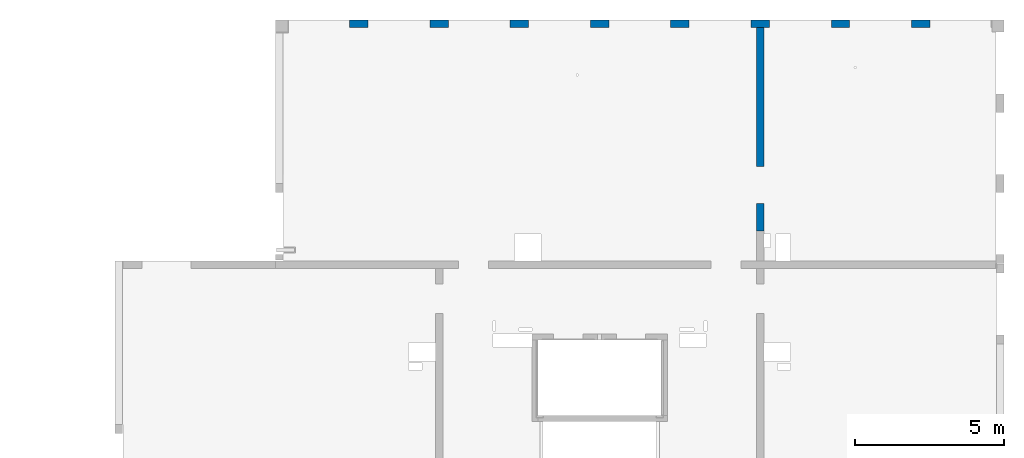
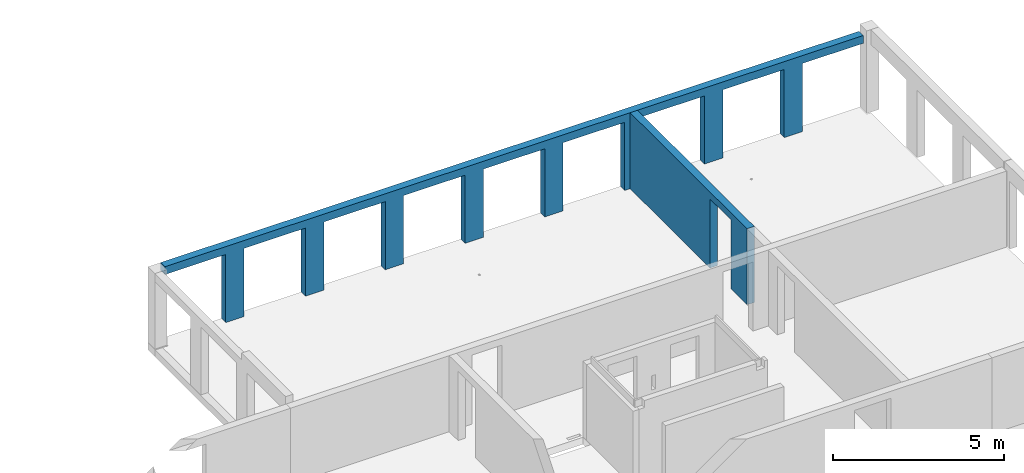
# One storey, part 7 of 12: 2 walls, 10 openings.
"""IFC2X3 building model written with IfcOpenShell, lengths in millimetres."""

import ifcopenshell
import ifcopenshell.guid

model = None  # the IFC model being written
_history = None  # IfcOwnerHistory: only IFC2X3 demands one
_inside = {}  # id of a spatial element -> (the spatial element, [elements in it])
_under = {}  # id of a project, library or spatial element -> (it, [spatial elements below it])
_declared = {}  # id of a project -> (the project, [libraries it declares])
_typed = {}  # id of a type object -> (the type object, [elements of that type])
_made_of = {}  # id of a material, layer set ... -> (it, [elements and type objects made of it])


def new_model(schema):
    """Start an empty IFC model of exactly this schema.

    Asked for "IFC4X3", IfcOpenShell would pick the latest addendum, in which some entities
    have other attributes; the version numbers below select the first issue.
    IFC2X3 requires an IfcOwnerHistory on every rooted entity: one is made here for all.
    """
    global model, _history
    if schema == "IFC4X3":
        model = ifcopenshell.file(schema_version=(4, 3, 0, 0))
    else:
        model = ifcopenshell.file(schema=schema)
    _inside.clear()
    _under.clear()
    _declared.clear()
    _typed.clear()
    _made_of.clear()
    _history = None
    if model.schema == "IFC2X3":
        org = make("IfcOrganization", Name="unknown")
        user = make(
            "IfcPersonAndOrganization",
            ThePerson=make("IfcPerson", FamilyName="unknown"),
            TheOrganization=org,
        )
        app = make(
            "IfcApplication",
            ApplicationDeveloper=org,
            Version="unknown",
            ApplicationFullName="unknown",
            ApplicationIdentifier="unknown",
        )
        _history = make(
            "IfcOwnerHistory",
            OwningUser=user,
            OwningApplication=app,
            ChangeAction="ADDED",
            CreationDate=0,
        )
    return model


def make(cls, **values):
    """One entity of the class cls with the attributes given. An attribute that is None is left unset."""
    return model.create_entity(
        cls, **{name: value for name, value in values.items() if value is not None}
    )


def entity(cls, *values):
    """Any entity or typed value of the class cls, its attributes in the order of the schema. None: left unset."""
    e = model.create_entity(cls)
    for i, value in enumerate(values):
        if value is not None:
            e[i] = value
    return e


def rooted(cls, **values):
    """An entity with a GlobalId (a new one), such as an element, a storey or a relation."""
    return make(cls, GlobalId=ifcopenshell.guid.new(), OwnerHistory=_history, **values)


def si_unit(unit_type, name, prefix=None):
    """IfcSIUnit, for example si_unit("LENGTHUNIT", "METRE", prefix="MILLI")."""
    return make("IfcSIUnit", UnitType=unit_type, Prefix=prefix, Name=name)


def converted_unit(unit_type, name, factor, base, dimensions=None, offset=None):
    """IfcConversionBasedUnit, such as the inch: factor (a typed value) times the base unit."""
    return make(
        "IfcConversionBasedUnit"
        if offset is None
        else "IfcConversionBasedUnitWithOffset",
        ConversionOffset=offset,
        Dimensions=None
        if dimensions is None
        else entity("IfcDimensionalExponents", *dimensions),
        UnitType=unit_type,
        Name=name,
        ConversionFactor=make(
            "IfcMeasureWithUnit", ValueComponent=factor, UnitComponent=base
        ),
    )


def derived_unit(unit_type, elements):
    """IfcDerivedUnit: a product of units, each with its exponent."""
    return make(
        "IfcDerivedUnit",
        Elements=[
            make("IfcDerivedUnitElement", Unit=unit, Exponent=power)
            for unit, power in elements
        ],
        UnitType=unit_type,
    )


def assignment(units):
    """IfcUnitAssignment: the units of a project."""
    return None if units is None else make("IfcUnitAssignment", Units=units)


def point(xyz):
    """IfcCartesianPoint."""
    return None if xyz is None else make("IfcCartesianPoint", Coordinates=xyz)


def direction(xyz):
    """IfcDirection."""
    return None if xyz is None else make("IfcDirection", DirectionRatios=xyz)


def frame(location, z_axis=None, x_axis=None):
    """IfcAxis2Placement3D, a coordinate frame: its origin and axes. An axis left out is left unset."""
    return make(
        "IfcAxis2Placement3D",
        Location=point(location),
        Axis=direction(z_axis),
        RefDirection=direction(x_axis),
    )


def frame_2d(location, x_axis=None):
    """IfcAxis2Placement2D, a coordinate frame in the plane: its origin and x axis."""
    return make(
        "IfcAxis2Placement2D", Location=point(location), RefDirection=direction(x_axis)
    )


def origin():
    """The frame at (0, 0, 0) with its axes left unset."""
    return frame((0.0, 0.0, 0.0))


def place(relative_to, where):
    """IfcLocalPlacement: puts the frame where relative to a parent placement (None: the world)."""
    return make(
        "IfcLocalPlacement", PlacementRelTo=relative_to, RelativePlacement=where
    )


def context(
    kind, dimensions, precision=None, world=None, true_north=None, identifier=None
):
    """IfcGeometricRepresentationContext, for example the 3D "Model" context."""
    return make(
        "IfcGeometricRepresentationContext",
        ContextIdentifier=identifier,
        ContextType=kind,
        CoordinateSpaceDimension=dimensions,
        Precision=precision,
        WorldCoordinateSystem=world,
        TrueNorth=true_north,
    )


def subcontext(parent, identifier, kind, view, scale=None):
    """IfcGeometricRepresentationSubContext, for example "Body" below "Model"."""
    return make(
        "IfcGeometricRepresentationSubContext",
        ContextIdentifier=identifier,
        ContextType=kind,
        ParentContext=parent,
        TargetScale=scale,
        TargetView=view,
    )


def project(units=None, contexts=None):
    """IfcProject with its units and contexts."""
    return rooted(
        "IfcProject",
        Name="project",
        RepresentationContexts=contexts,
        UnitsInContext=assignment(units),
    )


def spatial(cls, under=None, at=None, **own):
    """A site, building, storey or space (cls), placed at a placement, below another one or the project."""
    s = rooted(cls, ObjectPlacement=at, **own)
    if under is not None:
        _under.setdefault(under.id(), (under, []))[1].append(s)
    return s


def profile(cls, at=None, kind="AREA", **sizes):
    """A parametric profile (cls). Its sizes go by their IFC names, for example OverallWidth=200.0."""
    return make(cls, ProfileType=kind, Position=at, **sizes)


def rectangle(**sizes):
    """IfcRectangleProfileDef."""
    return profile("IfcRectangleProfileDef", **sizes)


def extrude(swept, where, along, depth):
    """IfcExtrudedAreaSolid: the profile swept, set in the frame where, extruded along a direction by depth."""
    return make(
        "IfcExtrudedAreaSolid",
        SweptArea=swept,
        Position=where,
        ExtrudedDirection=direction(along),
        Depth=depth,
    )


def shape(context_of_items, identifier, shape_type, items):
    """IfcShapeRepresentation: the items that make up one representation, for example the "Body"."""
    return make(
        "IfcShapeRepresentation",
        ContextOfItems=context_of_items,
        RepresentationIdentifier=identifier,
        RepresentationType=shape_type,
        Items=items,
    )


def material(Name=None, Category=None):
    """IfcMaterial."""
    return make("IfcMaterial", Name=Name, Category=Category)


def layer(
    of_material, thickness, ventilated=None, Name=None, Category=None, Priority=None
):
    """IfcMaterialLayer: one layer of a wall or slab, of a material (None: an air gap)."""
    return make(
        "IfcMaterialLayer",
        Material=of_material,
        LayerThickness=thickness,
        IsVentilated=ventilated,
        Name=Name,
        Category=Category,
        Priority=Priority,
    )


def layer_set(layers, Name=None):
    """IfcMaterialLayerSet."""
    return make("IfcMaterialLayerSet", MaterialLayers=layers, LayerSetName=Name)


def layer_usage(for_layer_set, set_direction, sense, offset, extent=None):
    """IfcMaterialLayerSetUsage: how a layer set lies in its element."""
    return make(
        "IfcMaterialLayerSetUsage",
        ForLayerSet=for_layer_set,
        LayerSetDirection=set_direction,
        DirectionSense=sense,
        OffsetFromReferenceLine=offset,
        ReferenceExtent=extent,
    )


def made_of(thing, what):
    """Note that an element or type object is made of a material, layer set ...; save() writes the relation."""
    if what is not None:
        _made_of.setdefault(what.id(), (what, []))[1].append(thing)
    return thing


def type_object(cls, material=None, **own):
    """A type object (cls), such as IfcWallType, which elements share."""
    return made_of(rooted(cls, **own), material)


def element(
    cls,
    number,
    at=None,
    inside=None,
    cuts=None,
    type_object=None,
    material=None,
    context=None,
    identifier="Body",
    shape_type=None,
    held_by="IfcProductDefinitionShape",
    body=None,
    shapes=None,
    **own,
):
    """One element of the class cls, such as IfcWall. Its Tag is "e" and its number.

    at: its placement. inside: the storey or other place that contains it. cuts: it is an
    opening in that element (IfcRelVoidsElement). A single representation is given by context,
    identifier, shape_type and body (its items); several are given by shapes. held_by: the class
    of the entity that holds the representations. save() writes the other relations.
    """
    e = rooted(cls, Tag="e%d" % number, ObjectPlacement=at, **own)
    if body is not None:
        shapes = [shape(context, identifier, shape_type, body)]
    if shapes is not None:
        e.Representation = make(held_by, Representations=shapes)
    if inside is not None:
        _inside.setdefault(inside.id(), (inside, []))[1].append(e)
    if cuts is not None:
        rooted(
            "IfcRelVoidsElement", RelatingBuildingElement=cuts, RelatedOpeningElement=e
        )
    if type_object is not None:
        _typed.setdefault(type_object.id(), (type_object, []))[1].append(e)
    return made_of(e, material)


def aggregate(whole, parts):
    """IfcRelAggregates: a whole, such as a stair, and the parts it consists of."""
    return rooted("IfcRelAggregates", RelatingObject=whole, RelatedObjects=parts)


def save(model, path):
    """Write the relations noted so far, then the file.

    IfcRelAggregates (storeys below a building ...), IfcRelContainedInSpatialStructure (elements
    in a storey), IfcRelDefinesByType, IfcRelAssociatesMaterial and IfcRelDeclares: one each for
    every whole, place, type object, material and project.
    """
    for whole, parts in _under.values():
        aggregate(whole, parts)
    for where, things in _inside.values():
        rooted(
            "IfcRelContainedInSpatialStructure",
            RelatedElements=things,
            RelatingStructure=where,
        )
    for kind, things in _typed.values():
        rooted("IfcRelDefinesByType", RelatedObjects=things, RelatingType=kind)
    for what, things in _made_of.values():
        rooted("IfcRelAssociatesMaterial", RelatedObjects=things, RelatingMaterial=what)
    for by, libraries in _declared.values():
        rooted("IfcRelDeclares", RelatingContext=by, RelatedDefinitions=libraries)
    model.write(path)


model = new_model("IFC2X3")

# Units and contexts
model_context = context("Model", 3, precision=0.01, world=origin(), true_north=direction((6.12303176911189e-17, 1.0)))
body_context = subcontext(model_context, "Body", "Model", "MODEL_VIEW")
ifc_project = project(units=[si_unit("LENGTHUNIT", "METRE", prefix="MILLI"), si_unit("AREAUNIT", "SQUARE_METRE"), si_unit("VOLUMEUNIT", "CUBIC_METRE"), converted_unit("PLANEANGLEUNIT", "DEGREE", entity("IfcRatioMeasure", 0.0174532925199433), si_unit("PLANEANGLEUNIT", "RADIAN"), dimensions=[0, 0, 0, 0, 0, 0, 0]), si_unit("MASSUNIT", "GRAM", prefix="KILO"), derived_unit("MASSDENSITYUNIT", [(si_unit("MASSUNIT", "GRAM", prefix="KILO"), 1), (si_unit("LENGTHUNIT", "METRE"), -3)]), si_unit("TIMEUNIT", "SECOND"), si_unit("FREQUENCYUNIT", "HERTZ"), si_unit("THERMODYNAMICTEMPERATUREUNIT", "DEGREE_CELSIUS"), derived_unit("THERMALTRANSMITTANCEUNIT", [(si_unit("MASSUNIT", "GRAM", prefix="KILO"), 1), (si_unit("THERMODYNAMICTEMPERATUREUNIT", "KELVIN"), -1), (si_unit("TIMEUNIT", "SECOND"), -3)]), derived_unit("VOLUMETRICFLOWRATEUNIT", [(si_unit("LENGTHUNIT", "METRE"), 3), (si_unit("TIMEUNIT", "SECOND"), -1)]), si_unit("ELECTRICCURRENTUNIT", "AMPERE"), si_unit("ELECTRICVOLTAGEUNIT", "VOLT"), si_unit("POWERUNIT", "WATT"), si_unit("FORCEUNIT", "NEWTON", prefix="KILO"), si_unit("ILLUMINANCEUNIT", "LUX"), si_unit("LUMINOUSFLUXUNIT", "LUMEN"), si_unit("LUMINOUSINTENSITYUNIT", "CANDELA"), derived_unit("USERDEFINED", [(si_unit("MASSUNIT", "GRAM", prefix="KILO"), -1), (si_unit("LENGTHUNIT", "METRE"), -2), (si_unit("TIMEUNIT", "SECOND"), 3), (si_unit("LUMINOUSFLUXUNIT", "LUMEN"), 1)]), derived_unit("LINEARVELOCITYUNIT", [(si_unit("LENGTHUNIT", "METRE"), 1), (si_unit("TIMEUNIT", "SECOND"), -1)]), si_unit("PRESSUREUNIT", "PASCAL"), derived_unit("USERDEFINED", [(si_unit("LENGTHUNIT", "METRE"), -2), (si_unit("MASSUNIT", "GRAM", prefix="KILO"), 1), (si_unit("TIMEUNIT", "SECOND"), -2)])], contexts=[model_context])

# Site, building, storey
site_placement = place(None, origin())
site = spatial("IfcSite", under=ifc_project, at=site_placement, Name="Default", CompositionType="ELEMENT")
building_placement = place(site_placement, origin())
building = spatial("IfcBuilding", under=site, at=building_placement, Name="niet gebruiken", CompositionType="ELEMENT")
storey_placement = place(building_placement, frame((0.0, 0.0, 21510.0)))
storey = spatial("IfcBuildingStorey", under=building, at=storey_placement, Name="07 zevende verdieping", CompositionType="ELEMENT", Elevation=21510.0)

# Wall, opening
ifc_material = material(Name="NLRS_f2_beton ihwg")
ifc_layer_1 = layer(ifc_material, 250.0)
ifc_layer_set_1 = layer_set([ifc_layer_1], Name="Basic Wall:NLRS_22.21_WA_beton ihwg d=250_gen")
ifc_layer_usage_1 = layer_usage(ifc_layer_set_1, "AXIS2", "NEGATIVE", 125.0)
wall_type_1 = type_object("IfcWallType", Name="Basic Wall:NLRS_22.21_WA_beton ihwg d=250_gen", PredefinedType="STANDARD", material=ifc_layer_set_1)
wall_1_placement = place(storey_placement, frame((97200.0, 53006.0, -90.0), z_axis=(0.0, 0.0, 1.0), x_axis=(0.0, -1.0, 0.0)))
wall_1 = element("IfcWallStandardCase", 1, at=wall_1_placement, inside=storey, type_object=wall_type_1, material=ifc_layer_usage_1, Name="Basic Wall:NLRS_22.21_WA_beton ihwg d=250_gen", ObjectType="Basic Wall:NLRS_22.21_WA_beton ihwg d=250_gen", context=body_context, shape_type="SweptSolid", body=[
    extrude(rectangle(XDim=6850.00000000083, YDim=250.000000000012, at=frame_2d((3425.00000000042, -1.10134124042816e-12), x_axis=(-1.0, 0.0))), origin(), (0.0, 0.0, 1.0), 2719.99999999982),
])
opening_1_placement = place(wall_1_placement, origin())
element("IfcOpeningElement", 2, at=opening_1_placement, cuts=wall_1, Name="Basic Wall:NLRS_22.21_WA_beton ihwg d=250_gen", ObjectType="Opening", context=body_context, shape_type="SweptSolid", body=[
    extrude(rectangle(XDim=2470.0, YDim=1240.0, at=frame_2d((0.0, -4.37694325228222e-12), x_axis=(1.0, 0.0))), frame((5300.0, -1649.0, 1235.0), z_axis=(0.0, 1.0, 0.0), x_axis=(0.0, 0.0, 1.0)), (0.0, 0.0, 1.0), 3048.0),
])

# Wall, openings
ifc_layer_2 = layer(ifc_material, 250.0)
ifc_layer_set_2 = layer_set([ifc_layer_2], Name="Basic Wall:NLRS_21.21_WA_beton ihwg d=250_gen")
ifc_layer_usage_2 = layer_usage(ifc_layer_set_2, "AXIS2", "NEGATIVE", 125.0)
wall_type_2 = type_object("IfcWallType", Name="Basic Wall:NLRS_21.21_WA_beton ihwg d=250_gen", PredefinedType="STANDARD", material=ifc_layer_set_2)
wall_2_placement = place(storey_placement, frame((104970.0, 53131.0, -90.0), z_axis=(0.0, 0.0, 1.0), x_axis=(-1.0, 0.0, 0.0)))
wall_2 = element("IfcWallStandardCase", 3, at=wall_2_placement, inside=storey, type_object=wall_type_2, material=ifc_layer_usage_2, Name="Basic Wall:NLRS_21.21_WA_beton ihwg d=250_gen", ObjectType="Basic Wall:NLRS_21.21_WA_beton ihwg d=250_gen", context=body_context, shape_type="SweptSolid", body=[
    extrude(rectangle(XDim=23640.0000000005, YDim=249.999999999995, at=frame_2d((11820.0000000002, 5.82645043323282e-13), x_axis=(-1.0, 0.0))), origin(), (0.0, 0.0, 1.0), 2720.0),
])
opening_2_placement = place(wall_2_placement, origin())
element("IfcOpeningElement", 4, at=opening_2_placement, cuts=wall_2, Name="Basic Wall:NLRS_21.21_WA_beton ihwg d=250_gen", ObjectType="Opening", context=body_context, shape_type="SweptSolid", body=[
    extrude(rectangle(XDim=2440.0, YDim=2080.0, at=frame_2d((8.64019966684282e-12, 0.0), x_axis=(0.0, 1.0))), frame((22620.0, -1399.0, 1220.0), z_axis=(0.0, 1.0, 0.0), x_axis=(-1.0, 0.0, 0.0)), (0.0, 0.0, 1.0), 3048.0),
])
opening_3_placement = place(wall_2_placement, origin())
element("IfcOpeningElement", 5, at=opening_3_placement, cuts=wall_2, Name="Basic Wall:NLRS_21.21_WA_beton ihwg d=250_gen", ObjectType="Opening", context=body_context, shape_type="SweptSolid", body=[
    extrude(rectangle(XDim=2440.0, YDim=2080.0, at=frame_2d((-8.64019966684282e-12, -2.1600499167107e-12), x_axis=(0.0, 1.0))), frame((19920.0, -1399.0, 1220.0), z_axis=(0.0, 1.0, 0.0), x_axis=(-1.0, 0.0, 0.0)), (0.0, 0.0, 1.0), 3048.0),
])
opening_4_placement = place(wall_2_placement, origin())
element("IfcOpeningElement", 6, at=opening_4_placement, cuts=wall_2, Name="Basic Wall:NLRS_21.21_WA_beton ihwg d=250_gen", ObjectType="Opening", context=body_context, shape_type="SweptSolid", body=[
    extrude(rectangle(XDim=2440.0, YDim=2080.0, at=frame_2d((-8.64019966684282e-12, 0.0), x_axis=(0.0, 1.0))), frame((17220.0, -1399.0, 1220.0), z_axis=(0.0, 1.0, 0.0), x_axis=(-1.0, 0.0, 0.0)), (0.0, 0.0, 1.0), 3048.0),
])
opening_5_placement = place(wall_2_placement, origin())
element("IfcOpeningElement", 7, at=opening_5_placement, cuts=wall_2, Name="Basic Wall:NLRS_21.21_WA_beton ihwg d=250_gen", ObjectType="Opening", context=body_context, shape_type="SweptSolid", body=[
    extrude(rectangle(XDim=2440.0, YDim=2080.0, at=frame_2d((8.64019966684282e-12, -2.1600499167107e-12), x_axis=(0.0, 1.0))), frame((14520.0, -1399.0, 1220.0), z_axis=(0.0, 1.0, 0.0), x_axis=(-1.0, 0.0, 0.0)), (0.0, 0.0, 1.0), 3048.0),
])
opening_6_placement = place(wall_2_placement, origin())
element("IfcOpeningElement", 8, at=opening_6_placement, cuts=wall_2, Name="Basic Wall:NLRS_21.21_WA_beton ihwg d=250_gen", ObjectType="Opening", context=body_context, shape_type="SweptSolid", body=[
    extrude(rectangle(XDim=2440.0, YDim=2080.0, at=frame_2d((-8.64019966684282e-12, 0.0), x_axis=(0.0, 1.0))), frame((11820.0, -1399.0, 1220.0), z_axis=(0.0, 1.0, 0.0), x_axis=(-1.0, 0.0, 0.0)), (0.0, 0.0, 1.0), 3048.0),
])
opening_7_placement = place(wall_2_placement, origin())
element("IfcOpeningElement", 9, at=opening_7_placement, cuts=wall_2, Name="Basic Wall:NLRS_21.21_WA_beton ihwg d=250_gen", ObjectType="Opening", context=body_context, shape_type="SweptSolid", body=[
    extrude(rectangle(XDim=2440.0, YDim=2080.0, at=frame_2d((-8.64019966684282e-12, -2.1600499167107e-12), x_axis=(0.0, 1.0))), frame((9120.0, -1399.0, 1220.0), z_axis=(0.0, 1.0, 0.0), x_axis=(-1.0, 0.0, 0.0)), (0.0, 0.0, 1.0), 3048.0),
])
opening_8_placement = place(wall_2_placement, origin())
element("IfcOpeningElement", 10, at=opening_8_placement, cuts=wall_2, Name="Basic Wall:NLRS_21.21_WA_beton ihwg d=250_gen", ObjectType="Opening", context=body_context, shape_type="SweptSolid", body=[
    extrude(rectangle(XDim=2440.0, YDim=2080.0, at=frame_2d((8.64019966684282e-12, 0.0), x_axis=(0.0, 1.0))), frame((6420.0, -1399.0, 1220.0), z_axis=(0.0, 1.0, 0.0), x_axis=(-1.0, 0.0, 0.0)), (0.0, 0.0, 1.0), 3048.0),
])
opening_9_placement = place(wall_2_placement, origin())
element("IfcOpeningElement", 11, at=opening_9_placement, cuts=wall_2, Name="Basic Wall:NLRS_21.21_WA_beton ihwg d=250_gen", ObjectType="Opening", context=body_context, shape_type="SweptSolid", body=[
    extrude(rectangle(XDim=2440.0, YDim=2080.0, at=frame_2d((8.64019966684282e-12, -2.1600499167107e-12), x_axis=(0.0, 1.0))), frame((3720.0, -1399.0, 1220.0), z_axis=(0.0, 1.0, 0.0), x_axis=(-1.0, 0.0, 0.0)), (0.0, 0.0, 1.0), 3048.0),
])
opening_10_placement = place(wall_2_placement, origin())
element("IfcOpeningElement", 12, at=opening_10_placement, cuts=wall_2, Name="Basic Wall:NLRS_21.21_WA_beton ihwg d=250_gen", ObjectType="Opening", context=body_context, shape_type="SweptSolid", body=[
    extrude(rectangle(XDim=2440.0, YDim=2080.0, at=frame_2d((-8.64019966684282e-12, 0.0), x_axis=(0.0, 1.0))), frame((1020.0, -1399.0, 1220.0), z_axis=(0.0, 1.0, 0.0), x_axis=(-1.0, 0.0, 0.0)), (0.0, 0.0, 1.0), 3048.0),
])

save(model, "model.ifc")
